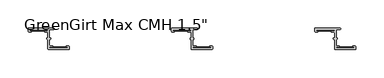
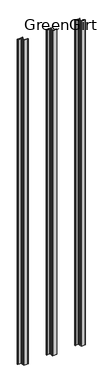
"""IFC4 building model written with IfcOpenShell, lengths in millimetres: fastener geometry."""

from ifc_helpers import new_model, si_unit, frame, origin, origin_with_axes, place, context, project, spatial, polyline, circle_curve, outline, extrude, source, transform, mapped, element, save
from ifc_brep_helpers import plane_surface, cylinder_surface, revolved_surface, advanced_brep


def fastener_15a7baf3(model_context):
    return source(origin(), model_context, "Body", "SolidModel", [
        advanced_brep(
        [(1070.102, -3.556, 3048.0), (1101.09, -3.556, 3048.0), (1101.09, -5.2832, 3048.0), (1096.899, -5.2832, 3048.0), (1096.899, -7.3152, 3048.0), (1101.09, -7.3152, 3048.0), (1101.852, -8.0772, 3048.0), (1101.852, -17.7601563, 3048.0), (1101.0035567, -17.7601563, 3048.0), (1101.0035567, -20.4288947, 3048.0), (1101.852, -20.4288947, 3048.0), (1101.852, -37.3379766, 3048.0), (1102.614, -38.0999766, 3048.0), (1138.8513242, -38.1, 3048.0), (1139.571, -37.3379766, 3048.0), (1139.571, -33.7057766, 3048.0), (1137.539, -31.6737766, 3048.0), (1135.253, -31.6737766, 3048.0), (1135.253, -33.7057766, 3048.0), (1136.269, -33.7057766, 3048.0), (1136.269, -35.4329766, 3048.0), (1105.281, -35.4329766, 3048.0), (1105.281, -33.7057766, 3048.0), (1109.472, -33.7057766, 3048.0), (1109.472, -31.6737766, 3048.0), (1105.281, -31.6737766, 3048.0), (1104.519, -30.9117766, 3048.0), (1104.519, -20.4279799, 3048.0), (1105.3679007, -20.4279799, 3048.0), (1105.3679007, -17.7601563, 3048.0), (1104.519, -17.7601563, 3048.0), (1104.519, -3.429, 3048.0), (1105.281, -2.667, 3048.0), (1111.377, -2.667, 3048.0), (1111.377, 0.0, 3048.0), (1067.562, 0.0, 3048.0), (1066.8, -0.762, 3048.0), (1066.8, -5.2832, 3048.0), (1068.832, -7.3152, 3048.0), (1071.118, -7.3152, 3048.0), (1071.118, -5.2832, 3048.0), (1070.102, -5.2832, 3048.0), (1070.102, -3.556, 0.0), (1070.102, -5.2832, 0.0), (1071.118, -5.2832, 0.0), (1071.118, -7.3152, 0.0), (1068.832, -7.3152, 0.0), (1066.8, -5.2832, 0.0), (1066.8, -0.762, 0.0), (1067.562, 0.0, 0.0), (1111.377, 0.0, 0.0), (1111.377, -2.667, 0.0), (1105.281, -2.667, 0.0), (1104.519, -3.429, 0.0), (1104.519, -17.7601563, 0.0), (1105.3679007, -17.7601563, 0.0), (1105.3679007, -20.4279799, 0.0), (1104.519, -20.4279799, 0.0), (1104.519, -30.9117766, 0.0), (1105.281, -31.6737766, 0.0), (1109.472, -31.6737766, 0.0), (1109.472, -33.7057766, 0.0), (1105.281, -33.7057766, 0.0), (1105.281, -35.4329766, 0.0), (1136.269, -35.4329766, 0.0), (1136.269, -33.7057766, 0.0), (1135.253, -33.7057766, 0.0), (1135.253, -31.6737766, 0.0), (1137.539, -31.6737766, 0.0), (1139.571, -33.7057766, 0.0), (1139.571, -37.3379766, 0.0), (1138.809, -38.0999766, 0.0), (1102.7467826, -38.1, 0.0), (1101.852, -37.3379766, 0.0), (1101.852, -20.4288947, 0.0), (1101.0035567, -20.4288947, 0.0), (1101.0035567, -17.7601563, 0.0), (1101.852, -17.7601563, 0.0), (1101.852, -8.0772, 0.0), (1101.09, -7.3152, 0.0), (1096.899, -7.3152, 0.0), (1096.899, -5.2832, 0.0), (1101.09, -5.2832, 0.0), (1101.09, -3.556, 0.0)],
        [
            (0, 1),
            (1, 2, circle_curve(frame((1101.09, -4.4196, 3048.0), z_axis=(0.0, 0.0, -1.0), x_axis=(1.0, 0.0, 0.0)), 0.8636)),
            (2, 3),
            (3, 4, circle_curve(frame((1096.899, -6.2992, 3048.0), z_axis=(0.0, 0.0, 1.0), x_axis=(1.0, 0.0, 0.0)), 1.016)),
            (4, 5),
            (5, 6, circle_curve(frame((1101.09, -8.0772, 3048.0), z_axis=(0.0, 0.0, -1.0), x_axis=(1.0, 0.0, 0.0)), 0.762)),
            (6, 7),
            (7, 8),
            (8, 9, circle_curve(frame((1101.0035567, -19.0945255, 3048.0), z_axis=(0.0, 0.0, 1.0), x_axis=(1.0, 0.0, 0.0)), 1.3343692)),
            (9, 10),
            (10, 11),
            (11, 12, circle_curve(frame((1102.614, -37.3379766, 3048.0), z_axis=(0.0, 0.0, 1.0), x_axis=(1.0, 0.0, 0.0)), 0.762)),
            (12, 13),
            (13, 14, circle_curve(frame((1138.809, -37.3379766, 3048.0), z_axis=(0.0, 0.0, 1.0), x_axis=(1.0, 0.0, 0.0)), 0.762)),
            (14, 15),
            (15, 16, circle_curve(frame((1137.539, -33.7057766, 3048.0), z_axis=(0.0, 0.0, 1.0), x_axis=(1.0, 0.0, 0.0)), 2.032)),
            (16, 17),
            (17, 18, circle_curve(frame((1135.253, -32.6897766, 3048.0), z_axis=(0.0, 0.0, 1.0), x_axis=(1.0, 0.0, 0.0)), 1.016)),
            (18, 19),
            (19, 20, circle_curve(frame((1136.269, -34.5693766, 3048.0), z_axis=(0.0, 0.0, -1.0), x_axis=(1.0, 0.0, 0.0)), 0.8636)),
            (20, 21),
            (21, 22, circle_curve(frame((1105.281, -34.5693766, 3048.0), z_axis=(0.0, 0.0, -1.0), x_axis=(1.0, 0.0, 0.0)), 0.8636)),
            (22, 23),
            (23, 24, circle_curve(frame((1109.472, -32.6897766, 3048.0), z_axis=(0.0, 0.0, 1.0), x_axis=(1.0, 0.0, 0.0)), 1.016)),
            (24, 25),
            (25, 26, circle_curve(frame((1105.281, -30.9117766, 3048.0), z_axis=(0.0, 0.0, -1.0), x_axis=(1.0, 0.0, 0.0)), 0.762)),
            (26, 27),
            (27, 28),
            (28, 29, circle_curve(frame((1105.3679007, -19.0940681, 3048.0), z_axis=(0.0, 0.0, 1.0), x_axis=(1.0, 0.0, 0.0)), 1.3339118)),
            (29, 30),
            (30, 31),
            (31, 32, circle_curve(frame((1105.281, -3.429, 3048.0), z_axis=(0.0, 0.0, -1.0), x_axis=(1.0, 0.0, 0.0)), 0.762)),
            (32, 33),
            (33, 34, circle_curve(frame((1111.377, -1.3335, 3048.0), z_axis=(0.0, 0.0, 1.0), x_axis=(1.0, 0.0, 0.0)), 1.3335)),
            (34, 35),
            (35, 36, circle_curve(frame((1067.562, -0.762, 3048.0), z_axis=(0.0, 0.0, 1.0), x_axis=(1.0, 0.0, 0.0)), 0.762)),
            (36, 37),
            (37, 38, circle_curve(frame((1068.832, -5.2832, 3048.0), z_axis=(0.0, 0.0, 1.0), x_axis=(1.0, 0.0, 0.0)), 2.032)),
            (38, 39),
            (39, 40, circle_curve(frame((1071.118, -6.2992, 3048.0), z_axis=(0.0, 0.0, 1.0), x_axis=(1.0, 0.0, 0.0)), 1.016)),
            (40, 41),
            (41, 0, circle_curve(frame((1070.102, -4.4196, 3048.0), z_axis=(0.0, 0.0, -1.0), x_axis=(1.0, 0.0, 0.0)), 0.8636)),
            (42, 43, circle_curve(frame((1070.102, -4.4196, 0.0), z_axis=(0.0, 0.0, 1.0), x_axis=(1.0, 0.0, 0.0)), 0.8636)),
            (43, 44),
            (44, 45, circle_curve(frame((1071.118, -6.2992, 0.0), z_axis=(0.0, 0.0, -1.0), x_axis=(1.0, 0.0, 0.0)), 1.016)),
            (45, 46),
            (46, 47, circle_curve(frame((1068.832, -5.2832, 0.0), z_axis=(0.0, 0.0, -1.0), x_axis=(1.0, 0.0, 0.0)), 2.032)),
            (47, 48),
            (48, 49, circle_curve(frame((1067.562, -0.762, 0.0), z_axis=(0.0, 0.0, -1.0), x_axis=(1.0, 0.0, 0.0)), 0.762)),
            (49, 50),
            (50, 51, circle_curve(frame((1111.377, -1.3335, 0.0), z_axis=(0.0, 0.0, -1.0), x_axis=(1.0, 0.0, 0.0)), 1.3335)),
            (51, 52),
            (52, 53, circle_curve(frame((1105.281, -3.429, 0.0), z_axis=(0.0, 0.0, 1.0), x_axis=(1.0, 0.0, 0.0)), 0.762)),
            (53, 54),
            (54, 55),
            (55, 56, circle_curve(frame((1105.3679007, -19.0940681, 0.0), z_axis=(0.0, 0.0, -1.0), x_axis=(1.0, 0.0, 0.0)), 1.3339118)),
            (56, 57),
            (57, 58),
            (58, 59, circle_curve(frame((1105.281, -30.9117766, 0.0), z_axis=(0.0, 0.0, 1.0), x_axis=(1.0, 0.0, 0.0)), 0.762)),
            (59, 60),
            (60, 61, circle_curve(frame((1109.472, -32.6897766, 0.0), z_axis=(0.0, 0.0, -1.0), x_axis=(1.0, 0.0, 0.0)), 1.016)),
            (61, 62),
            (62, 63, circle_curve(frame((1105.281, -34.5693766, 0.0), z_axis=(0.0, 0.0, 1.0), x_axis=(1.0, 0.0, 0.0)), 0.8636)),
            (63, 64),
            (64, 65, circle_curve(frame((1136.269, -34.5693766, 0.0), z_axis=(0.0, 0.0, 1.0), x_axis=(1.0, 0.0, 0.0)), 0.8636)),
            (65, 66),
            (66, 67, circle_curve(frame((1135.253, -32.6897766, 0.0), z_axis=(0.0, 0.0, -1.0), x_axis=(1.0, 0.0, 0.0)), 1.016)),
            (67, 68),
            (68, 69, circle_curve(frame((1137.539, -33.7057766, 0.0), z_axis=(0.0, 0.0, -1.0), x_axis=(1.0, 0.0, 0.0)), 2.032)),
            (69, 70),
            (70, 71, circle_curve(frame((1138.809, -37.3379766, 0.0), z_axis=(0.0, 0.0, -1.0), x_axis=(1.0, 0.0, 0.0)), 0.762)),
            (71, 72),
            (72, 73, circle_curve(frame((1102.614, -37.3379766, 0.0), z_axis=(0.0, 0.0, -1.0), x_axis=(1.0, 0.0, 0.0)), 0.762)),
            (73, 74),
            (74, 75),
            (75, 76, circle_curve(frame((1101.0035567, -19.0945255, 0.0), z_axis=(0.0, 0.0, -1.0), x_axis=(1.0, 0.0, 0.0)), 1.3343692)),
            (76, 77),
            (77, 78),
            (78, 79, circle_curve(frame((1101.09, -8.0772, 0.0), z_axis=(0.0, 0.0, 1.0), x_axis=(1.0, 0.0, 0.0)), 0.762)),
            (79, 80),
            (80, 81, circle_curve(frame((1096.899, -6.2992, 0.0), z_axis=(0.0, 0.0, -1.0), x_axis=(1.0, 0.0, 0.0)), 1.016)),
            (81, 82),
            (82, 83, circle_curve(frame((1101.09, -4.4196, 0.0), z_axis=(0.0, 0.0, 1.0), x_axis=(1.0, 0.0, 0.0)), 0.8636)),
            (83, 42),
            (0, 42),
            (83, 1),
            (82, 2),
            (81, 3),
            (80, 4),
            (79, 5),
            (78, 6),
            (77, 7),
            (76, 8),
            (75, 9),
            (74, 10),
            (73, 11),
            (72, 12),
            (71, 13),
            (70, 14),
            (69, 15),
            (68, 16),
            (67, 17),
            (66, 18),
            (65, 19),
            (64, 20),
            (63, 21),
            (62, 22),
            (61, 23),
            (60, 24),
            (59, 25),
            (58, 26),
            (57, 27),
            (56, 28),
            (55, 29),
            (54, 30),
            (53, 31),
            (52, 32),
            (51, 33),
            (50, 34),
            (49, 35),
            (48, 36),
            (47, 37),
            (46, 38),
            (45, 39),
            (44, 40),
            (43, 41),
        ],
        [
            plane_surface(frame((1101.09, -3.556, 3048.0), z_axis=(0.0, 0.0, 1.0), x_axis=(1.0, 0.0, 0.0))),
            plane_surface(frame((1101.09, -3.556, 0.0), z_axis=(0.0, 0.0, -1.0), x_axis=(-1.0, 0.0, 0.0))),
            plane_surface(frame((1070.102, -3.556, 3048.0), z_axis=(0.0, -1.0, 0.0), x_axis=(0.0, 0.0, -1.0))),
            revolved_surface(polyline([(1101.9535999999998, -4.4196, 0.0), (1101.9535999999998, -4.4196, 3048.0)]), (1101.09, -4.4196, 0.0), (0.0, 0.0, -1.0)),
            plane_surface(frame((1101.09, -5.2832, 3048.0), z_axis=(0.0, 1.0, 0.0), x_axis=(0.0, 0.0, -1.0))),
            cylinder_surface(frame((1096.899, -6.2992, 0.0), z_axis=(0.0, 0.0, 1.0), x_axis=(1.0, 0.0, 0.0)), 1.016),
            plane_surface(frame((1096.899, -7.3152, 3048.0), z_axis=(0.0, -1.0, 0.0), x_axis=(0.0, 0.0, -1.0))),
            revolved_surface(polyline([(1101.8519999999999, -8.0772, 0.0), (1101.8519999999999, -8.0772, 3048.0)]), (1101.09, -8.0772, 0.0), (0.0, 0.0, -1.0)),
            plane_surface(frame((1101.852, -8.0772, 3048.0), z_axis=(-1.0, 0.0, 0.0), x_axis=(0.0, 0.0, -1.0))),
            plane_surface(frame((1101.852, -17.7601563, 3048.0), z_axis=(0.0, 1.0, 0.0), x_axis=(0.0, 0.0, -1.0))),
            cylinder_surface(frame((1101.0035567, -19.0945255, 0.0), z_axis=(0.0, 0.0, 1.0), x_axis=(1.0, 0.0, 0.0)), 1.3343692),
            plane_surface(frame((1101.0035567, -20.4288947, 3048.0), z_axis=(0.0, -1.0, 0.0), x_axis=(0.0, 0.0, -1.0))),
            plane_surface(frame((1101.852, -20.4288947, 3048.0), z_axis=(-1.0, 0.0, 0.0), x_axis=(0.0, 0.0, -1.0))),
            cylinder_surface(frame((1102.614, -37.3379766, 0.0), z_axis=(0.0, 0.0, 1.0), x_axis=(1.0, 0.0, 0.0)), 0.762),
            plane_surface(frame((1102.7467826, -38.1, 3048.0), z_axis=(0.0, -1.0, 0.0), x_axis=(0.0, 0.0, -1.0))),
            cylinder_surface(frame((1138.809, -37.3379766, 0.0), z_axis=(0.0, 0.0, 1.0), x_axis=(1.0, 0.0, 0.0)), 0.762),
            plane_surface(frame((1139.571, -37.3379766, 3048.0), z_axis=(1.0, 1.094695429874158e-12, 0.0), x_axis=(0.0, 0.0, -1.0))),
            cylinder_surface(frame((1137.539, -33.7057766, 0.0), z_axis=(0.0, 0.0, 1.0), x_axis=(1.0, 0.0, 0.0)), 2.032),
            plane_surface(frame((1137.539, -31.6737766, 3048.0), z_axis=(0.0, 1.0, 0.0), x_axis=(0.0, 0.0, -1.0))),
            cylinder_surface(frame((1135.253, -32.6897766, 0.0), z_axis=(0.0, 0.0, 1.0), x_axis=(1.0, 0.0, 0.0)), 1.016),
            plane_surface(frame((1135.253, -33.7057766, 3048.0), z_axis=(0.0, -1.0, 0.0), x_axis=(0.0, 0.0, -1.0))),
            revolved_surface(polyline([(1137.1326, -34.5693766, 0.0), (1137.1326, -34.5693766, 3048.0)]), (1136.269, -34.5693766, 0.0), (0.0, 0.0, -1.0)),
            plane_surface(frame((1136.269, -35.4329766, 3048.0), z_axis=(0.0, 1.0, 0.0), x_axis=(0.0, 0.0, -1.0))),
            revolved_surface(polyline([(1106.1445999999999, -34.5693766, 0.0), (1106.1445999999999, -34.5693766, 3048.0)]), (1105.281, -34.5693766, 0.0), (0.0, 0.0, -1.0)),
            plane_surface(frame((1105.281, -33.7057766, 3048.0), z_axis=(0.0, -1.0, 0.0), x_axis=(0.0, 0.0, -1.0))),
            cylinder_surface(frame((1109.472, -32.6897766, 0.0), z_axis=(0.0, 0.0, 1.0), x_axis=(1.0, 0.0, 0.0)), 1.016),
            plane_surface(frame((1109.472, -31.6737766, 3048.0), z_axis=(0.0, 1.0, 0.0), x_axis=(0.0, 0.0, -1.0))),
            revolved_surface(polyline([(1106.043, -30.9117766, 0.0), (1106.043, -30.9117766, 3048.0)]), (1105.281, -30.9117766, 0.0), (0.0, 0.0, -1.0)),
            plane_surface(frame((1104.519, -30.9117766, 3048.0), z_axis=(1.0, 0.0, 0.0), x_axis=(0.0, 0.0, -1.0))),
            plane_surface(frame((1104.519, -20.4279799, 3048.0), z_axis=(0.0, -1.0, 0.0), x_axis=(0.0, 0.0, -1.0))),
            cylinder_surface(frame((1105.3679007, -19.0940681, 0.0), z_axis=(0.0, 0.0, 1.0), x_axis=(1.0, 0.0, 0.0)), 1.3339118),
            plane_surface(frame((1105.3679007, -17.7601563, 3048.0), z_axis=(0.0, 1.0, 0.0), x_axis=(0.0, 0.0, -1.0))),
            plane_surface(frame((1104.519, -17.7601563, 3048.0), z_axis=(1.0, 0.0, 0.0), x_axis=(0.0, 0.0, -1.0))),
            revolved_surface(polyline([(1106.043, -3.429, 0.0), (1106.043, -3.429, 3048.0)]), (1105.281, -3.429, 0.0), (0.0, 0.0, -1.0)),
            plane_surface(frame((1105.281, -2.667, 3048.0), z_axis=(0.0, -1.0, 0.0), x_axis=(0.0, 0.0, -1.0))),
            cylinder_surface(frame((1111.377, -1.3335, 0.0), z_axis=(0.0, 0.0, 1.0), x_axis=(1.0, 0.0, 0.0)), 1.3335),
            plane_surface(frame((1111.377, 0.0, 3048.0), z_axis=(0.0, 1.0, 0.0), x_axis=(0.0, 0.0, -1.0))),
            cylinder_surface(frame((1067.562, -0.762, 0.0), z_axis=(0.0, 0.0, 1.0), x_axis=(1.0, 0.0, 0.0)), 0.762),
            plane_surface(frame((1066.8, -0.762, 3048.0), z_axis=(-1.0, 1.1909948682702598e-12, 0.0), x_axis=(0.0, 0.0, -1.0))),
            cylinder_surface(frame((1068.832, -5.2832, 0.0), z_axis=(0.0, 0.0, 1.0), x_axis=(1.0, 0.0, 0.0)), 2.032),
            plane_surface(frame((1068.832, -7.3152, 3048.0), z_axis=(0.0, -1.0, 0.0), x_axis=(0.0, 0.0, -1.0))),
            cylinder_surface(frame((1071.118, -6.2992, 0.0), z_axis=(0.0, 0.0, 1.0), x_axis=(1.0, 0.0, 0.0)), 1.016),
            plane_surface(frame((1071.118, -5.2832, 3048.0), z_axis=(0.0, 1.0, 0.0), x_axis=(0.0, 0.0, -1.0))),
            revolved_surface(polyline([(1070.9656, -4.4196, 0.0), (1070.9656, -4.4196, 3048.0)]), (1070.102, -4.4196, 0.0), (0.0, 0.0, -1.0)),
        ],
        [
            (0, [[1, 2, 3, 4, 5, 6, 7, 8, 9, 10, 11, 12, 13, 14, 15, 16, 17, 18, 19, 20, 21, 22, 23, 24, 25, 26, 27, 28, 29, 30, 31, 32, 33, 34, 35, 36, 37, 38, 39, 40, 41, 42]]),
            (1, [[43, 44, 45, 46, 47, 48, 49, 50, 51, 52, 53, 54, 55, 56, 57, 58, 59, 60, 61, 62, 63, 64, 65, 66, 67, 68, 69, 70, 71, 72, 73, 74, 75, 76, 77, 78, 79, 80, 81, 82, 83, 84]]),
            (2, [[-1, 85, -84, 86]]),
            (3, [[-2, -86, -83, 87]]),
            (4, [[-3, -87, -82, 88]]),
            (5, [[-4, -88, -81, 89]]),
            (6, [[-5, -89, -80, 90]]),
            (7, [[-6, -90, -79, 91]]),
            (8, [[-7, -91, -78, 92]]),
            (9, [[-8, -92, -77, 93]]),
            (10, [[-9, -93, -76, 94]]),
            (11, [[-10, -94, -75, 95]]),
            (12, [[-11, -95, -74, 96]]),
            (13, [[-12, -96, -73, 97]]),
            (14, [[-13, -97, -72, 98]]),
            (15, [[-14, -98, -71, 99]]),
            (16, [[-15, -99, -70, 100]]),
            (17, [[-16, -100, -69, 101]]),
            (18, [[-17, -101, -68, 102]]),
            (19, [[-18, -102, -67, 103]]),
            (20, [[-19, -103, -66, 104]]),
            (21, [[-20, -104, -65, 105]]),
            (22, [[-21, -105, -64, 106]]),
            (23, [[-22, -106, -63, 107]]),
            (24, [[-23, -107, -62, 108]]),
            (25, [[-24, -108, -61, 109]]),
            (26, [[-25, -109, -60, 110]]),
            (27, [[-26, -110, -59, 111]]),
            (28, [[-27, -111, -58, 112]]),
            (29, [[-28, -112, -57, 113]]),
            (30, [[-29, -113, -56, 114]]),
            (31, [[-30, -114, -55, 115]]),
            (32, [[-31, -115, -54, 116]]),
            (33, [[-32, -116, -53, 117]]),
            (34, [[-33, -117, -52, 118]]),
            (35, [[-34, -118, -51, 119]]),
            (36, [[-35, -119, -50, 120]]),
            (37, [[-36, -120, -49, 121]]),
            (38, [[-37, -121, -48, 122]]),
            (39, [[-38, -122, -47, 123]]),
            (40, [[-39, -123, -46, 124]]),
            (41, [[-40, -124, -45, 125]]),
            (42, [[-41, -125, -44, 126]]),
            (43, [[-42, -126, -43, -85]]),
        ],
    ),
        extrude(outline(polyline([(1101.09, -3.556), (1101.09, -5.2832), (1070.102, -5.2832), (1070.102, -3.556), (1101.09, -3.556)])), origin_with_axes(), (0.0, 0.0, 1.0), 3048.0),
        extrude(outline(polyline([(1136.269, -33.7057766), (1136.269, -35.4329766), (1105.281, -35.4329766), (1105.281, -33.7057766), (1136.269, -33.7057766)])), origin_with_axes(), (0.0, 0.0, 1.0), 3048.0),
        advanced_brep(
        [(816.102, -3.556, 3048.0), (847.09, -3.556, 3048.0), (847.09, -5.2832, 3048.0), (842.899, -5.2832, 3048.0), (842.899, -7.3152, 3048.0), (847.09, -7.3152, 3048.0), (847.852, -8.0772, 3048.0), (847.852, -17.7601563, 3048.0), (847.0035567, -17.7601563, 3048.0), (847.0035567, -20.4288947, 3048.0), (847.852, -20.4288947, 3048.0), (847.852, -37.3379766, 3048.0), (848.614, -38.0999766, 3048.0), (884.8513242, -38.1, 3048.0), (885.571, -37.3379766, 3048.0), (885.571, -33.7057766, 3048.0), (883.539, -31.6737766, 3048.0), (881.253, -31.6737766, 3048.0), (881.253, -33.7057766, 3048.0), (882.269, -33.7057766, 3048.0), (882.269, -35.4329766, 3048.0), (851.281, -35.4329766, 3048.0), (851.281, -33.7057766, 3048.0), (855.472, -33.7057766, 3048.0), (855.472, -31.6737766, 3048.0), (851.281, -31.6737766, 3048.0), (850.519, -30.9117766, 3048.0), (850.519, -20.4279799, 3048.0), (851.3679007, -20.4279799, 3048.0), (851.3679007, -17.7601563, 3048.0), (850.519, -17.7601563, 3048.0), (850.519, -3.429, 3048.0), (851.281, -2.667, 3048.0), (857.377, -2.667, 3048.0), (857.377, 0.0, 3048.0), (813.562, 0.0, 3048.0), (812.8, -0.762, 3048.0), (812.8, -5.2832, 3048.0), (814.832, -7.3152, 3048.0), (817.118, -7.3152, 3048.0), (817.118, -5.2832, 3048.0), (816.102, -5.2832, 3048.0), (816.102, -3.556, 0.0), (816.102, -5.2832, 0.0), (817.118, -5.2832, 0.0), (817.118, -7.3152, 0.0), (814.832, -7.3152, 0.0), (812.8, -5.2832, 0.0), (812.8, -0.762, 0.0), (813.562, 0.0, 0.0), (857.377, 0.0, 0.0), (857.377, -2.667, 0.0), (851.281, -2.667, 0.0), (850.519, -3.429, 0.0), (850.519, -17.7601563, 0.0), (851.3679007, -17.7601563, 0.0), (851.3679007, -20.4279799, 0.0), (850.519, -20.4279799, 0.0), (850.519, -30.9117766, 0.0), (851.281, -31.6737766, 0.0), (855.472, -31.6737766, 0.0), (855.472, -33.7057766, 0.0), (851.281, -33.7057766, 0.0), (851.281, -35.4329766, 0.0), (882.269, -35.4329766, 0.0), (882.269, -33.7057766, 0.0), (881.253, -33.7057766, 0.0), (881.253, -31.6737766, 0.0), (883.539, -31.6737766, 0.0), (885.571, -33.7057766, 0.0), (885.571, -37.3379766, 0.0), (884.809, -38.0999766, 0.0), (848.7467826, -38.1, 0.0), (847.852, -37.3379766, 0.0), (847.852, -20.4288947, 0.0), (847.0035567, -20.4288947, 0.0), (847.0035567, -17.7601563, 0.0), (847.852, -17.7601563, 0.0), (847.852, -8.0772, 0.0), (847.09, -7.3152, 0.0), (842.899, -7.3152, 0.0), (842.899, -5.2832, 0.0), (847.09, -5.2832, 0.0), (847.09, -3.556, 0.0)],
        [
            (0, 1),
            (1, 2, circle_curve(frame((847.09, -4.4196, 3048.0), z_axis=(0.0, 0.0, -1.0), x_axis=(1.0, 0.0, 0.0)), 0.8636)),
            (2, 3),
            (3, 4, circle_curve(frame((842.899, -6.2992, 3048.0), z_axis=(0.0, 0.0, 1.0), x_axis=(1.0, 0.0, 0.0)), 1.016)),
            (4, 5),
            (5, 6, circle_curve(frame((847.09, -8.0772, 3048.0), z_axis=(0.0, 0.0, -1.0), x_axis=(1.0, 0.0, 0.0)), 0.762)),
            (6, 7),
            (7, 8),
            (8, 9, circle_curve(frame((847.0035567, -19.0945255, 3048.0), z_axis=(0.0, 0.0, 1.0), x_axis=(1.0, 0.0, 0.0)), 1.3343692)),
            (9, 10),
            (10, 11),
            (11, 12, circle_curve(frame((848.614, -37.3379766, 3048.0), z_axis=(0.0, 0.0, 1.0), x_axis=(1.0, 0.0, 0.0)), 0.762)),
            (12, 13),
            (13, 14, circle_curve(frame((884.809, -37.3379766, 3048.0), z_axis=(0.0, 0.0, 1.0), x_axis=(1.0, 0.0, 0.0)), 0.762)),
            (14, 15),
            (15, 16, circle_curve(frame((883.539, -33.7057766, 3048.0), z_axis=(0.0, 0.0, 1.0), x_axis=(1.0, 0.0, 0.0)), 2.032)),
            (16, 17),
            (17, 18, circle_curve(frame((881.253, -32.6897766, 3048.0), z_axis=(0.0, 0.0, 1.0), x_axis=(1.0, 0.0, 0.0)), 1.016)),
            (18, 19),
            (19, 20, circle_curve(frame((882.269, -34.5693766, 3048.0), z_axis=(0.0, 0.0, -1.0), x_axis=(1.0, 0.0, 0.0)), 0.8636)),
            (20, 21),
            (21, 22, circle_curve(frame((851.281, -34.5693766, 3048.0), z_axis=(0.0, 0.0, -1.0), x_axis=(1.0, 0.0, 0.0)), 0.8636)),
            (22, 23),
            (23, 24, circle_curve(frame((855.472, -32.6897766, 3048.0), z_axis=(0.0, 0.0, 1.0), x_axis=(1.0, 0.0, 0.0)), 1.016)),
            (24, 25),
            (25, 26, circle_curve(frame((851.281, -30.9117766, 3048.0), z_axis=(0.0, 0.0, -1.0), x_axis=(1.0, 0.0, 0.0)), 0.762)),
            (26, 27),
            (27, 28),
            (28, 29, circle_curve(frame((851.3679007, -19.0940681, 3048.0), z_axis=(0.0, 0.0, 1.0), x_axis=(1.0, 0.0, 0.0)), 1.3339118)),
            (29, 30),
            (30, 31),
            (31, 32, circle_curve(frame((851.281, -3.429, 3048.0), z_axis=(0.0, 0.0, -1.0), x_axis=(1.0, 0.0, 0.0)), 0.762)),
            (32, 33),
            (33, 34, circle_curve(frame((857.377, -1.3335, 3048.0), z_axis=(0.0, 0.0, 1.0), x_axis=(1.0, 0.0, 0.0)), 1.3335)),
            (34, 35),
            (35, 36, circle_curve(frame((813.562, -0.762, 3048.0), z_axis=(0.0, 0.0, 1.0), x_axis=(1.0, 0.0, 0.0)), 0.762)),
            (36, 37),
            (37, 38, circle_curve(frame((814.832, -5.2832, 3048.0), z_axis=(0.0, 0.0, 1.0), x_axis=(1.0, 0.0, 0.0)), 2.032)),
            (38, 39),
            (39, 40, circle_curve(frame((817.118, -6.2992, 3048.0), z_axis=(0.0, 0.0, 1.0), x_axis=(1.0, 0.0, 0.0)), 1.016)),
            (40, 41),
            (41, 0, circle_curve(frame((816.102, -4.4196, 3048.0), z_axis=(0.0, 0.0, -1.0), x_axis=(1.0, 0.0, 0.0)), 0.8636)),
            (42, 43, circle_curve(frame((816.102, -4.4196, 0.0), z_axis=(0.0, 0.0, 1.0), x_axis=(1.0, 0.0, 0.0)), 0.8636)),
            (43, 44),
            (44, 45, circle_curve(frame((817.118, -6.2992, 0.0), z_axis=(0.0, 0.0, -1.0), x_axis=(1.0, 0.0, 0.0)), 1.016)),
            (45, 46),
            (46, 47, circle_curve(frame((814.832, -5.2832, 0.0), z_axis=(0.0, 0.0, -1.0), x_axis=(1.0, 0.0, 0.0)), 2.032)),
            (47, 48),
            (48, 49, circle_curve(frame((813.562, -0.762, 0.0), z_axis=(0.0, 0.0, -1.0), x_axis=(1.0, 0.0, 0.0)), 0.762)),
            (49, 50),
            (50, 51, circle_curve(frame((857.377, -1.3335, 0.0), z_axis=(0.0, 0.0, -1.0), x_axis=(1.0, 0.0, 0.0)), 1.3335)),
            (51, 52),
            (52, 53, circle_curve(frame((851.281, -3.429, 0.0), z_axis=(0.0, 0.0, 1.0), x_axis=(1.0, 0.0, 0.0)), 0.762)),
            (53, 54),
            (54, 55),
            (55, 56, circle_curve(frame((851.3679007, -19.0940681, 0.0), z_axis=(0.0, 0.0, -1.0), x_axis=(1.0, 0.0, 0.0)), 1.3339118)),
            (56, 57),
            (57, 58),
            (58, 59, circle_curve(frame((851.281, -30.9117766, 0.0), z_axis=(0.0, 0.0, 1.0), x_axis=(1.0, 0.0, 0.0)), 0.762)),
            (59, 60),
            (60, 61, circle_curve(frame((855.472, -32.6897766, 0.0), z_axis=(0.0, 0.0, -1.0), x_axis=(1.0, 0.0, 0.0)), 1.016)),
            (61, 62),
            (62, 63, circle_curve(frame((851.281, -34.5693766, 0.0), z_axis=(0.0, 0.0, 1.0), x_axis=(1.0, 0.0, 0.0)), 0.8636)),
            (63, 64),
            (64, 65, circle_curve(frame((882.269, -34.5693766, 0.0), z_axis=(0.0, 0.0, 1.0), x_axis=(1.0, 0.0, 0.0)), 0.8636)),
            (65, 66),
            (66, 67, circle_curve(frame((881.253, -32.6897766, 0.0), z_axis=(0.0, 0.0, -1.0), x_axis=(1.0, 0.0, 0.0)), 1.016)),
            (67, 68),
            (68, 69, circle_curve(frame((883.539, -33.7057766, 0.0), z_axis=(0.0, 0.0, -1.0), x_axis=(1.0, 0.0, 0.0)), 2.032)),
            (69, 70),
            (70, 71, circle_curve(frame((884.809, -37.3379766, 0.0), z_axis=(0.0, 0.0, -1.0), x_axis=(1.0, 0.0, 0.0)), 0.762)),
            (71, 72),
            (72, 73, circle_curve(frame((848.614, -37.3379766, 0.0), z_axis=(0.0, 0.0, -1.0), x_axis=(1.0, 0.0, 0.0)), 0.762)),
            (73, 74),
            (74, 75),
            (75, 76, circle_curve(frame((847.0035567, -19.0945255, 0.0), z_axis=(0.0, 0.0, -1.0), x_axis=(1.0, 0.0, 0.0)), 1.3343692)),
            (76, 77),
            (77, 78),
            (78, 79, circle_curve(frame((847.09, -8.0772, 0.0), z_axis=(0.0, 0.0, 1.0), x_axis=(1.0, 0.0, 0.0)), 0.762)),
            (79, 80),
            (80, 81, circle_curve(frame((842.899, -6.2992, 0.0), z_axis=(0.0, 0.0, -1.0), x_axis=(1.0, 0.0, 0.0)), 1.016)),
            (81, 82),
            (82, 83, circle_curve(frame((847.09, -4.4196, 0.0), z_axis=(0.0, 0.0, 1.0), x_axis=(1.0, 0.0, 0.0)), 0.8636)),
            (83, 42),
            (0, 42),
            (83, 1),
            (82, 2),
            (81, 3),
            (80, 4),
            (79, 5),
            (78, 6),
            (77, 7),
            (76, 8),
            (75, 9),
            (74, 10),
            (73, 11),
            (72, 12),
            (71, 13),
            (70, 14),
            (69, 15),
            (68, 16),
            (67, 17),
            (66, 18),
            (65, 19),
            (64, 20),
            (63, 21),
            (62, 22),
            (61, 23),
            (60, 24),
            (59, 25),
            (58, 26),
            (57, 27),
            (56, 28),
            (55, 29),
            (54, 30),
            (53, 31),
            (52, 32),
            (51, 33),
            (50, 34),
            (49, 35),
            (48, 36),
            (47, 37),
            (46, 38),
            (45, 39),
            (44, 40),
            (43, 41),
        ],
        [
            plane_surface(frame((847.09, -3.556, 3048.0), z_axis=(0.0, 0.0, 1.0), x_axis=(1.0, 0.0, 0.0))),
            plane_surface(frame((847.09, -3.556, 0.0), z_axis=(0.0, 0.0, -1.0), x_axis=(-1.0, 0.0, 0.0))),
            plane_surface(frame((816.102, -3.556, 3048.0), z_axis=(0.0, -1.0, 0.0), x_axis=(0.0, 0.0, -1.0))),
            revolved_surface(polyline([(847.9536, -4.4196, 0.0), (847.9536, -4.4196, 3048.0)]), (847.09, -4.4196, 0.0), (0.0, 0.0, -1.0)),
            plane_surface(frame((847.09, -5.2832, 3048.0), z_axis=(0.0, 1.0, 0.0), x_axis=(0.0, 0.0, -1.0))),
            cylinder_surface(frame((842.899, -6.2992, 0.0), z_axis=(0.0, 0.0, 1.0), x_axis=(1.0, 0.0, 0.0)), 1.016),
            plane_surface(frame((842.899, -7.3152, 3048.0), z_axis=(0.0, -1.0, 0.0), x_axis=(0.0, 0.0, -1.0))),
            revolved_surface(polyline([(847.852, -8.0772, 0.0), (847.852, -8.0772, 3048.0)]), (847.09, -8.0772, 0.0), (0.0, 0.0, -1.0)),
            plane_surface(frame((847.852, -8.0772, 3048.0), z_axis=(-1.0, 0.0, 0.0), x_axis=(0.0, 0.0, -1.0))),
            plane_surface(frame((847.852, -17.7601563, 3048.0), z_axis=(0.0, 1.0, 0.0), x_axis=(0.0, 0.0, -1.0))),
            cylinder_surface(frame((847.0035567, -19.0945255, 0.0), z_axis=(0.0, 0.0, 1.0), x_axis=(1.0, 0.0, 0.0)), 1.3343692),
            plane_surface(frame((847.0035567, -20.4288947, 3048.0), z_axis=(0.0, -1.0, 0.0), x_axis=(0.0, 0.0, -1.0))),
            plane_surface(frame((847.852, -20.4288947, 3048.0), z_axis=(-1.0, 0.0, 0.0), x_axis=(0.0, 0.0, -1.0))),
            cylinder_surface(frame((848.614, -37.3379766, 0.0), z_axis=(0.0, 0.0, 1.0), x_axis=(1.0, 0.0, 0.0)), 0.762),
            plane_surface(frame((848.7467826, -38.1, 3048.0), z_axis=(0.0, -1.0, 0.0), x_axis=(0.0, 0.0, -1.0))),
            cylinder_surface(frame((884.809, -37.3379766, 0.0), z_axis=(0.0, 0.0, 1.0), x_axis=(1.0, 0.0, 0.0)), 0.762),
            plane_surface(frame((885.571, -37.3379766, 3048.0), z_axis=(1.0, 1.094695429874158e-12, 0.0), x_axis=(0.0, 0.0, -1.0))),
            cylinder_surface(frame((883.539, -33.7057766, 0.0), z_axis=(0.0, 0.0, 1.0), x_axis=(1.0, 0.0, 0.0)), 2.032),
            plane_surface(frame((883.539, -31.6737766, 3048.0), z_axis=(0.0, 1.0, 0.0), x_axis=(0.0, 0.0, -1.0))),
            cylinder_surface(frame((881.253, -32.6897766, 0.0), z_axis=(0.0, 0.0, 1.0), x_axis=(1.0, 0.0, 0.0)), 1.016),
            plane_surface(frame((881.253, -33.7057766, 3048.0), z_axis=(0.0, -1.0, 0.0), x_axis=(0.0, 0.0, -1.0))),
            revolved_surface(polyline([(883.1326, -34.5693766, 0.0), (883.1326, -34.5693766, 3048.0)]), (882.269, -34.5693766, 0.0), (0.0, 0.0, -1.0)),
            plane_surface(frame((882.269, -35.4329766, 3048.0), z_axis=(0.0, 1.0, 0.0), x_axis=(0.0, 0.0, -1.0))),
            revolved_surface(polyline([(852.1446, -34.5693766, 0.0), (852.1446, -34.5693766, 3048.0)]), (851.281, -34.5693766, 0.0), (0.0, 0.0, -1.0)),
            plane_surface(frame((851.281, -33.7057766, 3048.0), z_axis=(0.0, -1.0, 0.0), x_axis=(0.0, 0.0, -1.0))),
            cylinder_surface(frame((855.472, -32.6897766, 0.0), z_axis=(0.0, 0.0, 1.0), x_axis=(1.0, 0.0, 0.0)), 1.016),
            plane_surface(frame((855.472, -31.6737766, 3048.0), z_axis=(0.0, 1.0, 0.0), x_axis=(0.0, 0.0, -1.0))),
            revolved_surface(polyline([(852.0429999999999, -30.9117766, 0.0), (852.0429999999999, -30.9117766, 3048.0)]), (851.281, -30.9117766, 0.0), (0.0, 0.0, -1.0)),
            plane_surface(frame((850.519, -30.9117766, 3048.0), z_axis=(1.0, 0.0, 0.0), x_axis=(0.0, 0.0, -1.0))),
            plane_surface(frame((850.519, -20.4279799, 3048.0), z_axis=(0.0, -1.0, 0.0), x_axis=(0.0, 0.0, -1.0))),
            cylinder_surface(frame((851.3679007, -19.0940681, 0.0), z_axis=(0.0, 0.0, 1.0), x_axis=(1.0, 0.0, 0.0)), 1.3339118),
            plane_surface(frame((851.3679007, -17.7601563, 3048.0), z_axis=(0.0, 1.0, 0.0), x_axis=(0.0, 0.0, -1.0))),
            plane_surface(frame((850.519, -17.7601563, 3048.0), z_axis=(1.0, 0.0, 0.0), x_axis=(0.0, 0.0, -1.0))),
            revolved_surface(polyline([(852.0429999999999, -3.429, 0.0), (852.0429999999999, -3.429, 3048.0)]), (851.281, -3.429, 0.0), (0.0, 0.0, -1.0)),
            plane_surface(frame((851.281, -2.667, 3048.0), z_axis=(0.0, -1.0, 0.0), x_axis=(0.0, 0.0, -1.0))),
            cylinder_surface(frame((857.377, -1.3335, 0.0), z_axis=(0.0, 0.0, 1.0), x_axis=(1.0, 0.0, 0.0)), 1.3335),
            plane_surface(frame((857.377, 0.0, 3048.0), z_axis=(0.0, 1.0, 0.0), x_axis=(0.0, 0.0, -1.0))),
            cylinder_surface(frame((813.562, -0.762, 0.0), z_axis=(0.0, 0.0, 1.0), x_axis=(1.0, 0.0, 0.0)), 0.762),
            plane_surface(frame((812.8, -0.762, 3048.0), z_axis=(-1.0, 1.1909948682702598e-12, 0.0), x_axis=(0.0, 0.0, -1.0))),
            cylinder_surface(frame((814.832, -5.2832, 0.0), z_axis=(0.0, 0.0, 1.0), x_axis=(1.0, 0.0, 0.0)), 2.032),
            plane_surface(frame((814.832, -7.3152, 3048.0), z_axis=(0.0, -1.0, 0.0), x_axis=(0.0, 0.0, -1.0))),
            cylinder_surface(frame((817.118, -6.2992, 0.0), z_axis=(0.0, 0.0, 1.0), x_axis=(1.0, 0.0, 0.0)), 1.016),
            plane_surface(frame((817.118, -5.2832, 3048.0), z_axis=(0.0, 1.0, 0.0), x_axis=(0.0, 0.0, -1.0))),
            revolved_surface(polyline([(816.9656, -4.4196, 0.0), (816.9656, -4.4196, 3048.0)]), (816.102, -4.4196, 0.0), (0.0, 0.0, -1.0)),
        ],
        [
            (0, [[1, 2, 3, 4, 5, 6, 7, 8, 9, 10, 11, 12, 13, 14, 15, 16, 17, 18, 19, 20, 21, 22, 23, 24, 25, 26, 27, 28, 29, 30, 31, 32, 33, 34, 35, 36, 37, 38, 39, 40, 41, 42]]),
            (1, [[43, 44, 45, 46, 47, 48, 49, 50, 51, 52, 53, 54, 55, 56, 57, 58, 59, 60, 61, 62, 63, 64, 65, 66, 67, 68, 69, 70, 71, 72, 73, 74, 75, 76, 77, 78, 79, 80, 81, 82, 83, 84]]),
            (2, [[-1, 85, -84, 86]]),
            (3, [[-2, -86, -83, 87]]),
            (4, [[-3, -87, -82, 88]]),
            (5, [[-4, -88, -81, 89]]),
            (6, [[-5, -89, -80, 90]]),
            (7, [[-6, -90, -79, 91]]),
            (8, [[-7, -91, -78, 92]]),
            (9, [[-8, -92, -77, 93]]),
            (10, [[-9, -93, -76, 94]]),
            (11, [[-10, -94, -75, 95]]),
            (12, [[-11, -95, -74, 96]]),
            (13, [[-12, -96, -73, 97]]),
            (14, [[-13, -97, -72, 98]]),
            (15, [[-14, -98, -71, 99]]),
            (16, [[-15, -99, -70, 100]]),
            (17, [[-16, -100, -69, 101]]),
            (18, [[-17, -101, -68, 102]]),
            (19, [[-18, -102, -67, 103]]),
            (20, [[-19, -103, -66, 104]]),
            (21, [[-20, -104, -65, 105]]),
            (22, [[-21, -105, -64, 106]]),
            (23, [[-22, -106, -63, 107]]),
            (24, [[-23, -107, -62, 108]]),
            (25, [[-24, -108, -61, 109]]),
            (26, [[-25, -109, -60, 110]]),
            (27, [[-26, -110, -59, 111]]),
            (28, [[-27, -111, -58, 112]]),
            (29, [[-28, -112, -57, 113]]),
            (30, [[-29, -113, -56, 114]]),
            (31, [[-30, -114, -55, 115]]),
            (32, [[-31, -115, -54, 116]]),
            (33, [[-32, -116, -53, 117]]),
            (34, [[-33, -117, -52, 118]]),
            (35, [[-34, -118, -51, 119]]),
            (36, [[-35, -119, -50, 120]]),
            (37, [[-36, -120, -49, 121]]),
            (38, [[-37, -121, -48, 122]]),
            (39, [[-38, -122, -47, 123]]),
            (40, [[-39, -123, -46, 124]]),
            (41, [[-40, -124, -45, 125]]),
            (42, [[-41, -125, -44, 126]]),
            (43, [[-42, -126, -43, -85]]),
        ],
    ),
        extrude(outline(polyline([(847.09, -3.556), (847.09, -5.2832), (816.102, -5.2832), (816.102, -3.556), (847.09, -3.556)])), origin_with_axes(), (0.0, 0.0, 1.0), 3048.0),
        extrude(outline(polyline([(882.269, -33.7057766), (882.269, -35.4329766), (851.281, -35.4329766), (851.281, -33.7057766), (882.269, -33.7057766)])), origin_with_axes(), (0.0, 0.0, 1.0), 3048.0),
        advanced_brep(
        [(562.102, -3.556, 3048.0), (593.09, -3.556, 3048.0), (593.09, -5.2832, 3048.0), (588.899, -5.2832, 3048.0), (588.899, -7.3152, 3048.0), (593.09, -7.3152, 3048.0), (593.852, -8.0772, 3048.0), (593.852, -17.7601563, 3048.0), (593.0035567, -17.7601563, 3048.0), (593.0035567, -20.4288947, 3048.0), (593.852, -20.4288947, 3048.0), (593.852, -37.3379766, 3048.0), (594.614, -38.0999766, 3048.0), (630.8513242, -38.1, 3048.0), (631.571, -37.3379766, 3048.0), (631.571, -33.7057766, 3048.0), (629.539, -31.6737766, 3048.0), (627.253, -31.6737766, 3048.0), (627.253, -33.7057766, 3048.0), (628.269, -33.7057766, 3048.0), (628.269, -35.4329766, 3048.0), (597.281, -35.4329766, 3048.0), (597.281, -33.7057766, 3048.0), (601.472, -33.7057766, 3048.0), (601.472, -31.6737766, 3048.0), (597.281, -31.6737766, 3048.0), (596.519, -30.9117766, 3048.0), (596.519, -20.4279799, 3048.0), (597.3679007, -20.4279799, 3048.0), (597.3679007, -17.7601563, 3048.0), (596.519, -17.7601563, 3048.0), (596.519, -3.429, 3048.0), (597.281, -2.667, 3048.0), (603.377, -2.667, 3048.0), (603.377, 0.0, 3048.0), (559.562, 0.0, 3048.0), (558.8, -0.762, 3048.0), (558.8, -5.2832, 3048.0), (560.832, -7.3152, 3048.0), (563.118, -7.3152, 3048.0), (563.118, -5.2832, 3048.0), (562.102, -5.2832, 3048.0), (562.102, -3.556, 0.0), (562.102, -5.2832, 0.0), (563.118, -5.2832, 0.0), (563.118, -7.3152, 0.0), (560.832, -7.3152, 0.0), (558.8, -5.2832, 0.0), (558.8, -0.762, 0.0), (559.562, 0.0, 0.0), (603.377, 0.0, 0.0), (603.377, -2.667, 0.0), (597.281, -2.667, 0.0), (596.519, -3.429, 0.0), (596.519, -17.7601563, 0.0), (597.3679007, -17.7601563, 0.0), (597.3679007, -20.4279799, 0.0), (596.519, -20.4279799, 0.0), (596.519, -30.9117766, 0.0), (597.281, -31.6737766, 0.0), (601.472, -31.6737766, 0.0), (601.472, -33.7057766, 0.0), (597.281, -33.7057766, 0.0), (597.281, -35.4329766, 0.0), (628.269, -35.4329766, 0.0), (628.269, -33.7057766, 0.0), (627.253, -33.7057766, 0.0), (627.253, -31.6737766, 0.0), (629.539, -31.6737766, 0.0), (631.571, -33.7057766, 0.0), (631.571, -37.3379766, 0.0), (630.809, -38.0999766, 0.0), (594.7467826, -38.1, 0.0), (593.852, -37.3379766, 0.0), (593.852, -20.4288947, 0.0), (593.0035567, -20.4288947, 0.0), (593.0035567, -17.7601563, 0.0), (593.852, -17.7601563, 0.0), (593.852, -8.0772, 0.0), (593.09, -7.3152, 0.0), (588.899, -7.3152, 0.0), (588.899, -5.2832, 0.0), (593.09, -5.2832, 0.0), (593.09, -3.556, 0.0)],
        [
            (0, 1),
            (1, 2, circle_curve(frame((593.09, -4.4196, 3048.0), z_axis=(0.0, 0.0, -1.0), x_axis=(1.0, 0.0, 0.0)), 0.8636)),
            (2, 3),
            (3, 4, circle_curve(frame((588.899, -6.2992, 3048.0), z_axis=(0.0, 0.0, 1.0), x_axis=(1.0, 0.0, 0.0)), 1.016)),
            (4, 5),
            (5, 6, circle_curve(frame((593.09, -8.0772, 3048.0), z_axis=(0.0, 0.0, -1.0), x_axis=(1.0, 0.0, 0.0)), 0.762)),
            (6, 7),
            (7, 8),
            (8, 9, circle_curve(frame((593.0035567, -19.0945255, 3048.0), z_axis=(0.0, 0.0, 1.0), x_axis=(1.0, 0.0, 0.0)), 1.3343692)),
            (9, 10),
            (10, 11),
            (11, 12, circle_curve(frame((594.614, -37.3379766, 3048.0), z_axis=(0.0, 0.0, 1.0), x_axis=(1.0, 0.0, 0.0)), 0.762)),
            (12, 13),
            (13, 14, circle_curve(frame((630.809, -37.3379766, 3048.0), z_axis=(0.0, 0.0, 1.0), x_axis=(1.0, 0.0, 0.0)), 0.762)),
            (14, 15),
            (15, 16, circle_curve(frame((629.539, -33.7057766, 3048.0), z_axis=(0.0, 0.0, 1.0), x_axis=(1.0, 0.0, 0.0)), 2.032)),
            (16, 17),
            (17, 18, circle_curve(frame((627.253, -32.6897766, 3048.0), z_axis=(0.0, 0.0, 1.0), x_axis=(1.0, 0.0, 0.0)), 1.016)),
            (18, 19),
            (19, 20, circle_curve(frame((628.269, -34.5693766, 3048.0), z_axis=(0.0, 0.0, -1.0), x_axis=(1.0, 0.0, 0.0)), 0.8636)),
            (20, 21),
            (21, 22, circle_curve(frame((597.281, -34.5693766, 3048.0), z_axis=(0.0, 0.0, -1.0), x_axis=(1.0, 0.0, 0.0)), 0.8636)),
            (22, 23),
            (23, 24, circle_curve(frame((601.472, -32.6897766, 3048.0), z_axis=(0.0, 0.0, 1.0), x_axis=(1.0, 0.0, 0.0)), 1.016)),
            (24, 25),
            (25, 26, circle_curve(frame((597.281, -30.9117766, 3048.0), z_axis=(0.0, 0.0, -1.0), x_axis=(1.0, 0.0, 0.0)), 0.762)),
            (26, 27),
            (27, 28),
            (28, 29, circle_curve(frame((597.3679007, -19.0940681, 3048.0), z_axis=(0.0, 0.0, 1.0), x_axis=(1.0, 0.0, 0.0)), 1.3339118)),
            (29, 30),
            (30, 31),
            (31, 32, circle_curve(frame((597.281, -3.429, 3048.0), z_axis=(0.0, 0.0, -1.0), x_axis=(1.0, 0.0, 0.0)), 0.762)),
            (32, 33),
            (33, 34, circle_curve(frame((603.377, -1.3335, 3048.0), z_axis=(0.0, 0.0, 1.0), x_axis=(1.0, 0.0, 0.0)), 1.3335)),
            (34, 35),
            (35, 36, circle_curve(frame((559.562, -0.762, 3048.0), z_axis=(0.0, 0.0, 1.0), x_axis=(1.0, 0.0, 0.0)), 0.762)),
            (36, 37),
            (37, 38, circle_curve(frame((560.832, -5.2832, 3048.0), z_axis=(0.0, 0.0, 1.0), x_axis=(1.0, 0.0, 0.0)), 2.032)),
            (38, 39),
            (39, 40, circle_curve(frame((563.118, -6.2992, 3048.0), z_axis=(0.0, 0.0, 1.0), x_axis=(1.0, 0.0, 0.0)), 1.016)),
            (40, 41),
            (41, 0, circle_curve(frame((562.102, -4.4196, 3048.0), z_axis=(0.0, 0.0, -1.0), x_axis=(1.0, 0.0, 0.0)), 0.8636)),
            (42, 43, circle_curve(frame((562.102, -4.4196, 0.0), z_axis=(0.0, 0.0, 1.0), x_axis=(1.0, 0.0, 0.0)), 0.8636)),
            (43, 44),
            (44, 45, circle_curve(frame((563.118, -6.2992, 0.0), z_axis=(0.0, 0.0, -1.0), x_axis=(1.0, 0.0, 0.0)), 1.016)),
            (45, 46),
            (46, 47, circle_curve(frame((560.832, -5.2832, 0.0), z_axis=(0.0, 0.0, -1.0), x_axis=(1.0, 0.0, 0.0)), 2.032)),
            (47, 48),
            (48, 49, circle_curve(frame((559.562, -0.762, 0.0), z_axis=(0.0, 0.0, -1.0), x_axis=(1.0, 0.0, 0.0)), 0.762)),
            (49, 50),
            (50, 51, circle_curve(frame((603.377, -1.3335, 0.0), z_axis=(0.0, 0.0, -1.0), x_axis=(1.0, 0.0, 0.0)), 1.3335)),
            (51, 52),
            (52, 53, circle_curve(frame((597.281, -3.429, 0.0), z_axis=(0.0, 0.0, 1.0), x_axis=(1.0, 0.0, 0.0)), 0.762)),
            (53, 54),
            (54, 55),
            (55, 56, circle_curve(frame((597.3679007, -19.0940681, 0.0), z_axis=(0.0, 0.0, -1.0), x_axis=(1.0, 0.0, 0.0)), 1.3339118)),
            (56, 57),
            (57, 58),
            (58, 59, circle_curve(frame((597.281, -30.9117766, 0.0), z_axis=(0.0, 0.0, 1.0), x_axis=(1.0, 0.0, 0.0)), 0.762)),
            (59, 60),
            (60, 61, circle_curve(frame((601.472, -32.6897766, 0.0), z_axis=(0.0, 0.0, -1.0), x_axis=(1.0, 0.0, 0.0)), 1.016)),
            (61, 62),
            (62, 63, circle_curve(frame((597.281, -34.5693766, 0.0), z_axis=(0.0, 0.0, 1.0), x_axis=(1.0, 0.0, 0.0)), 0.8636)),
            (63, 64),
            (64, 65, circle_curve(frame((628.269, -34.5693766, 0.0), z_axis=(0.0, 0.0, 1.0), x_axis=(1.0, 0.0, 0.0)), 0.8636)),
            (65, 66),
            (66, 67, circle_curve(frame((627.253, -32.6897766, 0.0), z_axis=(0.0, 0.0, -1.0), x_axis=(1.0, 0.0, 0.0)), 1.016)),
            (67, 68),
            (68, 69, circle_curve(frame((629.539, -33.7057766, 0.0), z_axis=(0.0, 0.0, -1.0), x_axis=(1.0, 0.0, 0.0)), 2.032)),
            (69, 70),
            (70, 71, circle_curve(frame((630.809, -37.3379766, 0.0), z_axis=(0.0, 0.0, -1.0), x_axis=(1.0, 0.0, 0.0)), 0.762)),
            (71, 72),
            (72, 73, circle_curve(frame((594.614, -37.3379766, 0.0), z_axis=(0.0, 0.0, -1.0), x_axis=(1.0, 0.0, 0.0)), 0.762)),
            (73, 74),
            (74, 75),
            (75, 76, circle_curve(frame((593.0035567, -19.0945255, 0.0), z_axis=(0.0, 0.0, -1.0), x_axis=(1.0, 0.0, 0.0)), 1.3343692)),
            (76, 77),
            (77, 78),
            (78, 79, circle_curve(frame((593.09, -8.0772, 0.0), z_axis=(0.0, 0.0, 1.0), x_axis=(1.0, 0.0, 0.0)), 0.762)),
            (79, 80),
            (80, 81, circle_curve(frame((588.899, -6.2992, 0.0), z_axis=(0.0, 0.0, -1.0), x_axis=(1.0, 0.0, 0.0)), 1.016)),
            (81, 82),
            (82, 83, circle_curve(frame((593.09, -4.4196, 0.0), z_axis=(0.0, 0.0, 1.0), x_axis=(1.0, 0.0, 0.0)), 0.8636)),
            (83, 42),
            (0, 42),
            (83, 1),
            (82, 2),
            (81, 3),
            (80, 4),
            (79, 5),
            (78, 6),
            (77, 7),
            (76, 8),
            (75, 9),
            (74, 10),
            (73, 11),
            (72, 12),
            (71, 13),
            (70, 14),
            (69, 15),
            (68, 16),
            (67, 17),
            (66, 18),
            (65, 19),
            (64, 20),
            (63, 21),
            (62, 22),
            (61, 23),
            (60, 24),
            (59, 25),
            (58, 26),
            (57, 27),
            (56, 28),
            (55, 29),
            (54, 30),
            (53, 31),
            (52, 32),
            (51, 33),
            (50, 34),
            (49, 35),
            (48, 36),
            (47, 37),
            (46, 38),
            (45, 39),
            (44, 40),
            (43, 41),
        ],
        [
            plane_surface(frame((593.09, -3.556, 3048.0), z_axis=(0.0, 0.0, 1.0), x_axis=(1.0, 0.0, 0.0))),
            plane_surface(frame((593.09, -3.556, 0.0), z_axis=(0.0, 0.0, -1.0), x_axis=(-1.0, 0.0, 0.0))),
            plane_surface(frame((562.102, -3.556, 3048.0), z_axis=(0.0, -1.0, 0.0), x_axis=(0.0, 0.0, -1.0))),
            revolved_surface(polyline([(593.9536, -4.4196, 0.0), (593.9536, -4.4196, 3048.0)]), (593.09, -4.4196, 0.0), (0.0, 0.0, -1.0)),
            plane_surface(frame((593.09, -5.2832, 3048.0), z_axis=(0.0, 1.0, 0.0), x_axis=(0.0, 0.0, -1.0))),
            cylinder_surface(frame((588.899, -6.2992, 0.0), z_axis=(0.0, 0.0, 1.0), x_axis=(1.0, 0.0, 0.0)), 1.016),
            plane_surface(frame((588.899, -7.3152, 3048.0), z_axis=(0.0, -1.0, 0.0), x_axis=(0.0, 0.0, -1.0))),
            revolved_surface(polyline([(593.852, -8.0772, 0.0), (593.852, -8.0772, 3048.0)]), (593.09, -8.0772, 0.0), (0.0, 0.0, -1.0)),
            plane_surface(frame((593.852, -8.0772, 3048.0), z_axis=(-1.0, 0.0, 0.0), x_axis=(0.0, 0.0, -1.0))),
            plane_surface(frame((593.852, -17.7601563, 3048.0), z_axis=(0.0, 1.0, 0.0), x_axis=(0.0, 0.0, -1.0))),
            cylinder_surface(frame((593.0035567, -19.0945255, 0.0), z_axis=(0.0, 0.0, 1.0), x_axis=(1.0, 0.0, 0.0)), 1.3343692),
            plane_surface(frame((593.0035567, -20.4288947, 3048.0), z_axis=(0.0, -1.0, 0.0), x_axis=(0.0, 0.0, -1.0))),
            plane_surface(frame((593.852, -20.4288947, 3048.0), z_axis=(-1.0, 0.0, 0.0), x_axis=(0.0, 0.0, -1.0))),
            cylinder_surface(frame((594.614, -37.3379766, 0.0), z_axis=(0.0, 0.0, 1.0), x_axis=(1.0, 0.0, 0.0)), 0.762),
            plane_surface(frame((594.7467826, -38.1, 3048.0), z_axis=(0.0, -1.0, 0.0), x_axis=(0.0, 0.0, -1.0))),
            cylinder_surface(frame((630.809, -37.3379766, 0.0), z_axis=(0.0, 0.0, 1.0), x_axis=(1.0, 0.0, 0.0)), 0.762),
            plane_surface(frame((631.571, -37.3379766, 3048.0), z_axis=(1.0, 1.094695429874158e-12, 0.0), x_axis=(0.0, 0.0, -1.0))),
            cylinder_surface(frame((629.539, -33.7057766, 0.0), z_axis=(0.0, 0.0, 1.0), x_axis=(1.0, 0.0, 0.0)), 2.032),
            plane_surface(frame((629.539, -31.6737766, 3048.0), z_axis=(0.0, 1.0, 0.0), x_axis=(0.0, 0.0, -1.0))),
            cylinder_surface(frame((627.253, -32.6897766, 0.0), z_axis=(0.0, 0.0, 1.0), x_axis=(1.0, 0.0, 0.0)), 1.016),
            plane_surface(frame((627.253, -33.7057766, 3048.0), z_axis=(0.0, -1.0, 0.0), x_axis=(0.0, 0.0, -1.0))),
            revolved_surface(polyline([(629.1326, -34.5693766, 0.0), (629.1326, -34.5693766, 3048.0)]), (628.269, -34.5693766, 0.0), (0.0, 0.0, -1.0)),
            plane_surface(frame((628.269, -35.4329766, 3048.0), z_axis=(0.0, 1.0, 0.0), x_axis=(0.0, 0.0, -1.0))),
            revolved_surface(polyline([(598.1446, -34.5693766, 0.0), (598.1446, -34.5693766, 3048.0)]), (597.281, -34.5693766, 0.0), (0.0, 0.0, -1.0)),
            plane_surface(frame((597.281, -33.7057766, 3048.0), z_axis=(0.0, -1.0, 0.0), x_axis=(0.0, 0.0, -1.0))),
            cylinder_surface(frame((601.472, -32.6897766, 0.0), z_axis=(0.0, 0.0, 1.0), x_axis=(1.0, 0.0, 0.0)), 1.016),
            plane_surface(frame((601.472, -31.6737766, 3048.0), z_axis=(0.0, 1.0, 0.0), x_axis=(0.0, 0.0, -1.0))),
            revolved_surface(polyline([(598.0429999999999, -30.9117766, 0.0), (598.0429999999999, -30.9117766, 3048.0)]), (597.281, -30.9117766, 0.0), (0.0, 0.0, -1.0)),
            plane_surface(frame((596.519, -30.9117766, 3048.0), z_axis=(1.0, 0.0, 0.0), x_axis=(0.0, 0.0, -1.0))),
            plane_surface(frame((596.519, -20.4279799, 3048.0), z_axis=(0.0, -1.0, 0.0), x_axis=(0.0, 0.0, -1.0))),
            cylinder_surface(frame((597.3679007, -19.0940681, 0.0), z_axis=(0.0, 0.0, 1.0), x_axis=(1.0, 0.0, 0.0)), 1.3339118),
            plane_surface(frame((597.3679007, -17.7601563, 3048.0), z_axis=(0.0, 1.0, 0.0), x_axis=(0.0, 0.0, -1.0))),
            plane_surface(frame((596.519, -17.7601563, 3048.0), z_axis=(1.0, 0.0, 0.0), x_axis=(0.0, 0.0, -1.0))),
            revolved_surface(polyline([(598.0429999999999, -3.429, 0.0), (598.0429999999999, -3.429, 3048.0)]), (597.281, -3.429, 0.0), (0.0, 0.0, -1.0)),
            plane_surface(frame((597.281, -2.667, 3048.0), z_axis=(0.0, -1.0, 0.0), x_axis=(0.0, 0.0, -1.0))),
            cylinder_surface(frame((603.377, -1.3335, 0.0), z_axis=(0.0, 0.0, 1.0), x_axis=(1.0, 0.0, 0.0)), 1.3335),
            plane_surface(frame((603.377, 0.0, 3048.0), z_axis=(0.0, 1.0, 0.0), x_axis=(0.0, 0.0, -1.0))),
            cylinder_surface(frame((559.562, -0.762, 0.0), z_axis=(0.0, 0.0, 1.0), x_axis=(1.0, 0.0, 0.0)), 0.762),
            plane_surface(frame((558.8, -0.762, 3048.0), z_axis=(-1.0, 1.1909948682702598e-12, 0.0), x_axis=(0.0, 0.0, -1.0))),
            cylinder_surface(frame((560.832, -5.2832, 0.0), z_axis=(0.0, 0.0, 1.0), x_axis=(1.0, 0.0, 0.0)), 2.032),
            plane_surface(frame((560.832, -7.3152, 3048.0), z_axis=(0.0, -1.0, 0.0), x_axis=(0.0, 0.0, -1.0))),
            cylinder_surface(frame((563.118, -6.2992, 0.0), z_axis=(0.0, 0.0, 1.0), x_axis=(1.0, 0.0, 0.0)), 1.016),
            plane_surface(frame((563.118, -5.2832, 3048.0), z_axis=(0.0, 1.0, 0.0), x_axis=(0.0, 0.0, -1.0))),
            revolved_surface(polyline([(562.9656, -4.4196, 0.0), (562.9656, -4.4196, 3048.0)]), (562.102, -4.4196, 0.0), (0.0, 0.0, -1.0)),
        ],
        [
            (0, [[1, 2, 3, 4, 5, 6, 7, 8, 9, 10, 11, 12, 13, 14, 15, 16, 17, 18, 19, 20, 21, 22, 23, 24, 25, 26, 27, 28, 29, 30, 31, 32, 33, 34, 35, 36, 37, 38, 39, 40, 41, 42]]),
            (1, [[43, 44, 45, 46, 47, 48, 49, 50, 51, 52, 53, 54, 55, 56, 57, 58, 59, 60, 61, 62, 63, 64, 65, 66, 67, 68, 69, 70, 71, 72, 73, 74, 75, 76, 77, 78, 79, 80, 81, 82, 83, 84]]),
            (2, [[-1, 85, -84, 86]]),
            (3, [[-2, -86, -83, 87]]),
            (4, [[-3, -87, -82, 88]]),
            (5, [[-4, -88, -81, 89]]),
            (6, [[-5, -89, -80, 90]]),
            (7, [[-6, -90, -79, 91]]),
            (8, [[-7, -91, -78, 92]]),
            (9, [[-8, -92, -77, 93]]),
            (10, [[-9, -93, -76, 94]]),
            (11, [[-10, -94, -75, 95]]),
            (12, [[-11, -95, -74, 96]]),
            (13, [[-12, -96, -73, 97]]),
            (14, [[-13, -97, -72, 98]]),
            (15, [[-14, -98, -71, 99]]),
            (16, [[-15, -99, -70, 100]]),
            (17, [[-16, -100, -69, 101]]),
            (18, [[-17, -101, -68, 102]]),
            (19, [[-18, -102, -67, 103]]),
            (20, [[-19, -103, -66, 104]]),
            (21, [[-20, -104, -65, 105]]),
            (22, [[-21, -105, -64, 106]]),
            (23, [[-22, -106, -63, 107]]),
            (24, [[-23, -107, -62, 108]]),
            (25, [[-24, -108, -61, 109]]),
            (26, [[-25, -109, -60, 110]]),
            (27, [[-26, -110, -59, 111]]),
            (28, [[-27, -111, -58, 112]]),
            (29, [[-28, -112, -57, 113]]),
            (30, [[-29, -113, -56, 114]]),
            (31, [[-30, -114, -55, 115]]),
            (32, [[-31, -115, -54, 116]]),
            (33, [[-32, -116, -53, 117]]),
            (34, [[-33, -117, -52, 118]]),
            (35, [[-34, -118, -51, 119]]),
            (36, [[-35, -119, -50, 120]]),
            (37, [[-36, -120, -49, 121]]),
            (38, [[-37, -121, -48, 122]]),
            (39, [[-38, -122, -47, 123]]),
            (40, [[-39, -123, -46, 124]]),
            (41, [[-40, -124, -45, 125]]),
            (42, [[-41, -125, -44, 126]]),
            (43, [[-42, -126, -43, -85]]),
        ],
    ),
        extrude(outline(polyline([(593.09, -3.556), (593.09, -5.2832), (562.102, -5.2832), (562.102, -3.556), (593.09, -3.556)])), origin_with_axes(), (0.0, 0.0, 1.0), 3048.0),
        extrude(outline(polyline([(628.269, -33.7057766), (628.269, -35.4329766), (597.281, -35.4329766), (597.281, -33.7057766), (628.269, -33.7057766)])), origin_with_axes(), (0.0, 0.0, 1.0), 3048.0),
    ])


if __name__ == "__main__":
    model = new_model("IFC4")
    model_context = context("Model", 3, world=origin())
    ifc_project = project(units=[si_unit("LENGTHUNIT", "METRE", prefix="MILLI")], contexts=[model_context])
    site = spatial("IfcSite", under=ifc_project)
    building = spatial("IfcBuilding", under=site)
    placement = place(None, origin())
    fastener_shape = fastener_15a7baf3(model_context)
    element("IfcFastener", 1, ObjectType="Structural-Supporting-Components_Advanced-Architectural-Products_GreenGirt-Max-CMH-System : GreenGirt Max CMH 1.5\"", at=placement, inside=building, context=model_context, shape_type="MappedRepresentation", body=[
        mapped(fastener_shape, transform((0.0, 0.0, 0.0), x_axis=(1.0, 0.0, 0.0), y_axis=(0.0, 1.0, 0.0), z_axis=(0.0, 0.0, 1.0))),
    ])
    save(model, "model.ifc")
